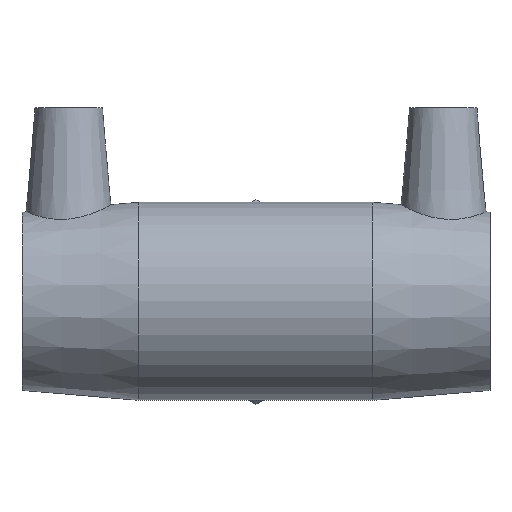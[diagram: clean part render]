
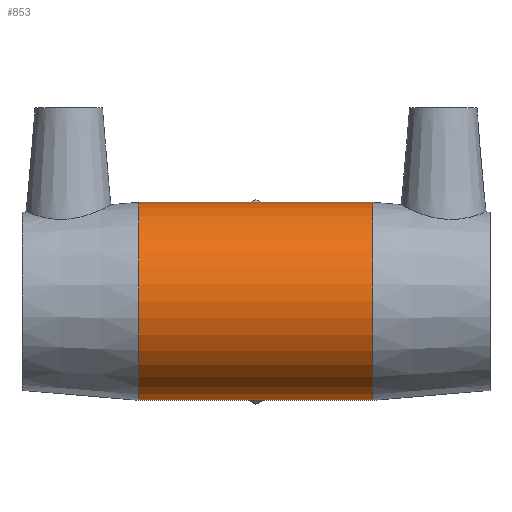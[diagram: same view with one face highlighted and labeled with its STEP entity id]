
A CAD part, top view. The second image highlights one B-rep face of the part: STEP entity #853.
In plain terms, the highlighted cylindrical face has radius 22 mm (diameter 44 mm), a full revolution.
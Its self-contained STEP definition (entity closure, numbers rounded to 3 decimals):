
#51=FACE_BOUND('',#295,.T.);
#52=FACE_BOUND('',#296,.T.);
#105=CIRCLE('',#949,22.);
#106=CIRCLE('',#950,22.);
#213=FACE_OUTER_BOUND('',#294,.T.);
#294=EDGE_LOOP('',(#737));
#295=EDGE_LOOP('',(#738));
#296=EDGE_LOOP('',(#739));
#395=B_SPLINE_CURVE_WITH_KNOTS('',3,(#1521,#1522,#1523,#1524,#1525,#1526,
#1527,#1528,#1529,#1530,#1531,#1532,#1533,#1534,#1535,#1536,#1537,#1538,
#1539,#1540,#1541,#1542,#1543,#1544,#1545,#1546,#1547,#1548,#1549,#1550,
#1551,#1552,#1553,#1554,#1555,#1556,#1557,#1558,#1559,#1560,#1561,#1562,
#1563,#1564,#1565,#1566,#1567,#1568,#1569,#1570),.UNSPECIFIED.,.T.,.F.,
(4,2,2,2,2,2,2,2,2,2,2,2,2,2,2,2,2,2,2,2,2,2,2,2,4),(0.,0.267,
0.533,1.066,1.595,1.86,2.124,
2.389,2.653,3.182,3.716,3.982,
4.249,4.515,4.782,5.315,5.844,
6.108,6.373,6.638,6.902,7.431,
7.964,8.231,8.497),.UNSPECIFIED.);
#451=VERTEX_POINT('',#1520);
#458=VERTEX_POINT('',#1597);
#459=VERTEX_POINT('',#1599);
#552=EDGE_CURVE('',#451,#451,#395,.T.);
#562=EDGE_CURVE('',#458,#458,#105,.T.);
#563=EDGE_CURVE('',#459,#459,#106,.T.);
#737=ORIENTED_EDGE('',*,*,#562,.T.);
#738=ORIENTED_EDGE('',*,*,#563,.F.);
#739=ORIENTED_EDGE('',*,*,#552,.T.);
#807=CYLINDRICAL_SURFACE('',#948,22.);
#853=ADVANCED_FACE('',(#213,#51,#52),#807,.T.);
#948=AXIS2_PLACEMENT_3D('',#1596,#1153,#1154);
#949=AXIS2_PLACEMENT_3D('',#1598,#1155,#1156);
#950=AXIS2_PLACEMENT_3D('',#1600,#1157,#1158);
#1153=DIRECTION('center_axis',(1.,0.,0.));
#1154=DIRECTION('ref_axis',(0.,1.,0.));
#1155=DIRECTION('center_axis',(1.,0.,0.));
#1156=DIRECTION('ref_axis',(0.,0.,-1.));
#1157=DIRECTION('center_axis',(1.,0.,0.));
#1158=DIRECTION('ref_axis',(0.,0.,-1.));
#1520=CARTESIAN_POINT('',(0.,13.631,-17.268));
#1521=CARTESIAN_POINT('Ctrl Pts',(0.,13.631,-17.268));
#1522=CARTESIAN_POINT('Ctrl Pts',(-0.889,13.631,-17.268));
#1523=CARTESIAN_POINT('Ctrl Pts',(-1.795,13.543,-17.339));
#1524=CARTESIAN_POINT('Ctrl Pts',(-3.576,13.185,-17.613));
#1525=CARTESIAN_POINT('Ctrl Pts',(-4.452,12.915,-17.815));
#1526=CARTESIAN_POINT('Ctrl Pts',(-6.952,11.863,-18.547));
#1527=CARTESIAN_POINT('Ctrl Pts',(-8.451,10.827,-19.197));
#1528=CARTESIAN_POINT('Ctrl Pts',(-10.818,8.46,-20.351));
#1529=CARTESIAN_POINT('Ctrl Pts',(-11.86,6.959,-20.941));
#1530=CARTESIAN_POINT('Ctrl Pts',(-12.916,4.449,-21.563));
#1531=CARTESIAN_POINT('Ctrl Pts',(-13.187,3.57,-21.727));
#1532=CARTESIAN_POINT('Ctrl Pts',(-13.544,1.786,-21.946));
#1533=CARTESIAN_POINT('Ctrl Pts',(-13.631,0.882,-22.));
#1534=CARTESIAN_POINT('Ctrl Pts',(-13.631,-0.882,-22.));
#1535=CARTESIAN_POINT('Ctrl Pts',(-13.544,-1.786,-21.946));
#1536=CARTESIAN_POINT('Ctrl Pts',(-13.187,-3.57,-21.727));
#1537=CARTESIAN_POINT('Ctrl Pts',(-12.916,-4.449,-21.563));
#1538=CARTESIAN_POINT('Ctrl Pts',(-11.86,-6.959,-20.941));
#1539=CARTESIAN_POINT('Ctrl Pts',(-10.818,-8.46,-20.351));
#1540=CARTESIAN_POINT('Ctrl Pts',(-8.451,-10.827,-19.197));
#1541=CARTESIAN_POINT('Ctrl Pts',(-6.952,-11.863,-18.547));
#1542=CARTESIAN_POINT('Ctrl Pts',(-4.452,-12.915,-17.815));
#1543=CARTESIAN_POINT('Ctrl Pts',(-3.576,-13.185,-17.613));
#1544=CARTESIAN_POINT('Ctrl Pts',(-1.795,-13.543,-17.339));
#1545=CARTESIAN_POINT('Ctrl Pts',(-0.889,-13.631,-17.268));
#1546=CARTESIAN_POINT('Ctrl Pts',(0.889,-13.631,-17.268));
#1547=CARTESIAN_POINT('Ctrl Pts',(1.795,-13.543,-17.339));
#1548=CARTESIAN_POINT('Ctrl Pts',(3.576,-13.185,-17.613));
#1549=CARTESIAN_POINT('Ctrl Pts',(4.452,-12.915,-17.815));
#1550=CARTESIAN_POINT('Ctrl Pts',(6.952,-11.863,-18.547));
#1551=CARTESIAN_POINT('Ctrl Pts',(8.451,-10.827,-19.197));
#1552=CARTESIAN_POINT('Ctrl Pts',(10.818,-8.46,-20.351));
#1553=CARTESIAN_POINT('Ctrl Pts',(11.86,-6.959,-20.941));
#1554=CARTESIAN_POINT('Ctrl Pts',(12.916,-4.449,-21.563));
#1555=CARTESIAN_POINT('Ctrl Pts',(13.187,-3.57,-21.727));
#1556=CARTESIAN_POINT('Ctrl Pts',(13.544,-1.786,-21.946));
#1557=CARTESIAN_POINT('Ctrl Pts',(13.631,-0.882,-22.));
#1558=CARTESIAN_POINT('Ctrl Pts',(13.631,0.882,-22.));
#1559=CARTESIAN_POINT('Ctrl Pts',(13.544,1.786,-21.946));
#1560=CARTESIAN_POINT('Ctrl Pts',(13.187,3.57,-21.727));
#1561=CARTESIAN_POINT('Ctrl Pts',(12.916,4.449,-21.563));
#1562=CARTESIAN_POINT('Ctrl Pts',(11.86,6.959,-20.941));
#1563=CARTESIAN_POINT('Ctrl Pts',(10.818,8.46,-20.351));
#1564=CARTESIAN_POINT('Ctrl Pts',(8.451,10.827,-19.197));
#1565=CARTESIAN_POINT('Ctrl Pts',(6.952,11.863,-18.547));
#1566=CARTESIAN_POINT('Ctrl Pts',(4.452,12.915,-17.815));
#1567=CARTESIAN_POINT('Ctrl Pts',(3.576,13.185,-17.613));
#1568=CARTESIAN_POINT('Ctrl Pts',(1.795,13.543,-17.339));
#1569=CARTESIAN_POINT('Ctrl Pts',(0.889,13.631,-17.268));
#1570=CARTESIAN_POINT('Ctrl Pts',(0.,13.631,-17.268));
#1596=CARTESIAN_POINT('Origin',(0.,0.,0.));
#1597=CARTESIAN_POINT('',(-26.,22.,0.));
#1598=CARTESIAN_POINT('Origin',(-26.,0.,0.));
#1599=CARTESIAN_POINT('',(26.,22.,0.));
#1600=CARTESIAN_POINT('Origin',(26.,0.,0.));
